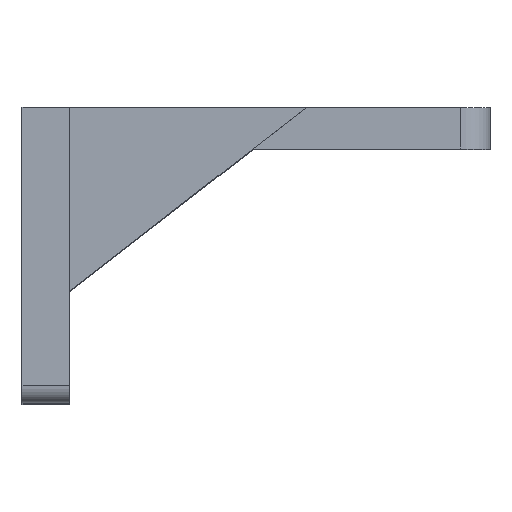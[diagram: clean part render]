
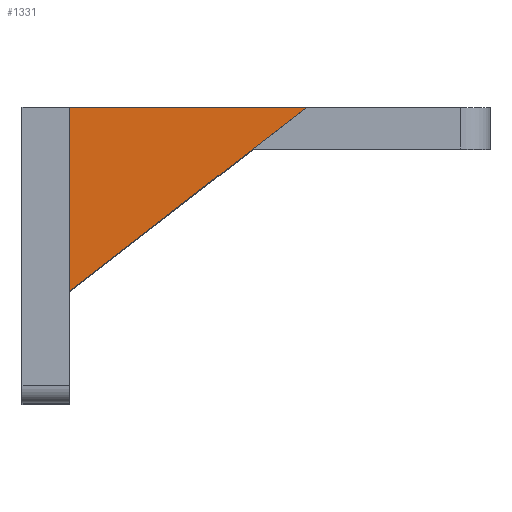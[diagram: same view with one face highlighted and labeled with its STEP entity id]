
A CAD part, top view. The second image highlights one B-rep face of the part: STEP entity #1331.
In plain terms, the highlighted planar face has unit normal (0, 0, 1).
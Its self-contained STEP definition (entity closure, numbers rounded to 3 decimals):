
#31 = DIRECTION ( 'NONE',  ( -1., 0., 0. ) ) ;
#32 = CARTESIAN_POINT ( 'NONE',  ( 68., 25., 39.75 ) ) ;
#34 = LINE ( 'NONE', #32, #434 ) ;
#118 = DIRECTION ( 'NONE',  ( -0.79, -0.613, 0. ) ) ;
#120 = CARTESIAN_POINT ( 'NONE',  ( 48., 25., 39.75 ) ) ;
#122 = LINE ( 'NONE', #120, #942 ) ;
#135 = CARTESIAN_POINT ( 'NONE',  ( 8., -6., 39.75 ) ) ;
#141 = DIRECTION ( 'NONE',  ( 0., 1., 0. ) ) ;
#142 = CARTESIAN_POINT ( 'NONE',  ( 8., 25., 39.75 ) ) ;
#275 = CARTESIAN_POINT ( 'NONE',  ( 68., 25., 39.75 ) ) ;
#295 = DIRECTION ( 'NONE',  ( 0., 0., -1. ) ) ;
#358 = ORIENTED_EDGE ( 'NONE', *, *, #1204, .T. ) ;
#434 = VECTOR ( 'NONE', #31, 1000. ) ;
#672 = ORIENTED_EDGE ( 'NONE', *, *, #1144, .F. ) ;
#841 = PLANE ( 'NONE',  #1221 ) ;
#919 = VECTOR ( 'NONE', #1421, 1000. ) ;
#942 = VECTOR ( 'NONE', #118, 1000. ) ;
#1120 = VERTEX_POINT ( 'NONE', #142 ) ;
#1128 = VERTEX_POINT ( 'NONE', #135 ) ;
#1144 = EDGE_CURVE ( 'NONE', #1251, #1128, #122, .T. ) ;
#1195 = FACE_OUTER_BOUND ( 'NONE', #1490, .T. ) ;
#1204 = EDGE_CURVE ( 'NONE', #1251, #1120, #34, .T. ) ;
#1221 = AXIS2_PLACEMENT_3D ( 'NONE', #275, #295, #141 ) ;
#1251 = VERTEX_POINT ( 'NONE', #1607 ) ;
#1278 = ORIENTED_EDGE ( 'NONE', *, *, #1399, .T. ) ;
#1331 = ADVANCED_FACE ( 'NONE', ( #1195 ), #841, .F. ) ;
#1399 = EDGE_CURVE ( 'NONE', #1120, #1128, #1439, .T. ) ;
#1421 = DIRECTION ( 'NONE',  ( 0., -1., 0. ) ) ;
#1423 = CARTESIAN_POINT ( 'NONE',  ( 8., 25., 39.75 ) ) ;
#1439 = LINE ( 'NONE', #1423, #919 ) ;
#1490 = EDGE_LOOP ( 'NONE', ( #1278, #672, #358 ) ) ;
#1607 = CARTESIAN_POINT ( 'NONE',  ( 48., 25., 39.75 ) ) ;
